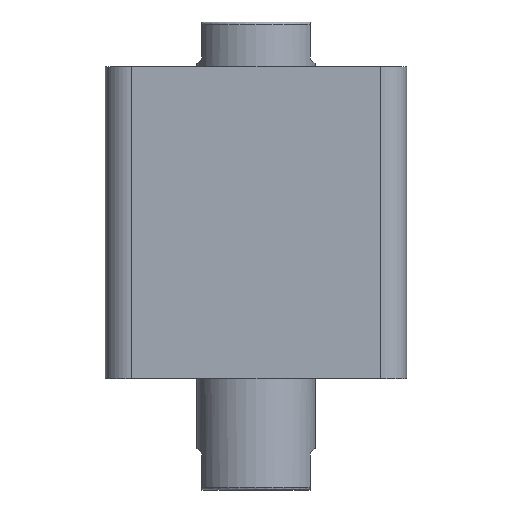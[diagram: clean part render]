
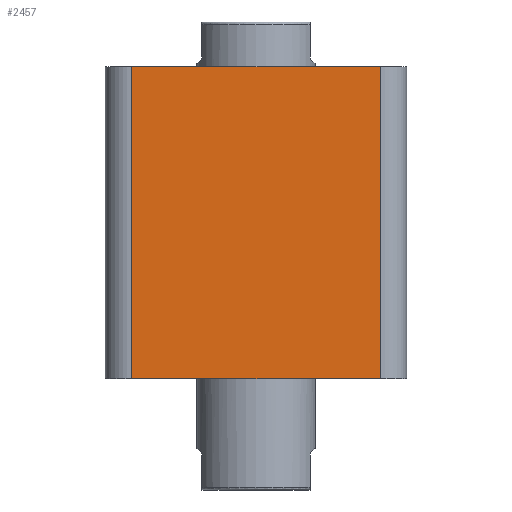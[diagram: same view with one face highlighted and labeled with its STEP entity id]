
A CAD part, front view. The second image highlights one B-rep face of the part: STEP entity #2457.
In plain terms, the highlighted planar face has unit normal (0, -1, 0).
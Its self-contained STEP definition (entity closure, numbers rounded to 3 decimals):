
#97 = VERTEX_POINT ( 'NONE', #3205 ) ;
#98 = VERTEX_POINT ( 'NONE', #3203 ) ;
#100 = VERTEX_POINT ( 'NONE', #3201 ) ;
#296 = EDGE_CURVE ( 'NONE', #735, #97, #2974, .T. ) ;
#298 = EDGE_CURVE ( 'NONE', #98, #735, #2978, .T. ) ;
#306 = EDGE_CURVE ( 'NONE', #98, #100, #2987, .T. ) ;
#307 = EDGE_CURVE ( 'NONE', #97, #100, #2988, .T. ) ;
#502 = AXIS2_PLACEMENT_3D ( 'NONE', #1616, #1620, #1621 ) ;
#735 = VERTEX_POINT ( 'NONE', #1118 ) ;
#1009 = DIRECTION ( 'NONE',  ( 0., 0., -1. ) ) ;
#1012 = CARTESIAN_POINT ( 'NONE',  ( -57., -57., 0. ) ) ;
#1013 = CARTESIAN_POINT ( 'NONE',  ( -47., -57., 118. ) ) ;
#1014 = DIRECTION ( 'NONE',  ( 1., 0., 0. ) ) ;
#1033 = CARTESIAN_POINT ( 'NONE',  ( -57., -57., 118. ) ) ;
#1034 = DIRECTION ( 'NONE',  ( 1., 0., 0. ) ) ;
#1041 = CARTESIAN_POINT ( 'NONE',  ( 47., -57., 118. ) ) ;
#1042 = DIRECTION ( 'NONE',  ( 0., 0., 1. ) ) ;
#1118 = CARTESIAN_POINT ( 'NONE',  ( -47., -57., 0. ) ) ;
#1616 = CARTESIAN_POINT ( 'NONE',  ( -57., -57., 118. ) ) ;
#1618 = PLANE ( 'NONE',  #502 ) ;
#1620 = DIRECTION ( 'NONE',  ( 0., 1., 0. ) ) ;
#1621 = DIRECTION ( 'NONE',  ( 0., 0., 1. ) ) ;
#2117 = FACE_OUTER_BOUND ( 'NONE', #2782, .T. ) ;
#2457 = ADVANCED_FACE ( 'NONE', ( #2117 ), #1618, .F. ) ;
#2601 = ORIENTED_EDGE ( 'NONE', *, *, #298, .T. ) ;
#2602 = ORIENTED_EDGE ( 'NONE', *, *, #306, .F. ) ;
#2603 = ORIENTED_EDGE ( 'NONE', *, *, #307, .T. ) ;
#2604 = ORIENTED_EDGE ( 'NONE', *, *, #296, .T. ) ;
#2782 = EDGE_LOOP ( 'NONE', ( #2604, #2603, #2602, #2601 ) ) ;
#2974 = LINE ( 'NONE', #1012, #2977 ) ;
#2977 = VECTOR ( 'NONE', #1014, 1000. ) ;
#2978 = LINE ( 'NONE', #1013, #2980 ) ;
#2980 = VECTOR ( 'NONE', #1009, 1000. ) ;
#2987 = LINE ( 'NONE', #1033, #2989 ) ;
#2988 = LINE ( 'NONE', #1041, #2991 ) ;
#2989 = VECTOR ( 'NONE', #1034, 1000. ) ;
#2991 = VECTOR ( 'NONE', #1042, 1000. ) ;
#3201 = CARTESIAN_POINT ( 'NONE',  ( 47., -57., 118. ) ) ;
#3203 = CARTESIAN_POINT ( 'NONE',  ( -47., -57., 118. ) ) ;
#3205 = CARTESIAN_POINT ( 'NONE',  ( 47., -57., 0. ) ) ;
